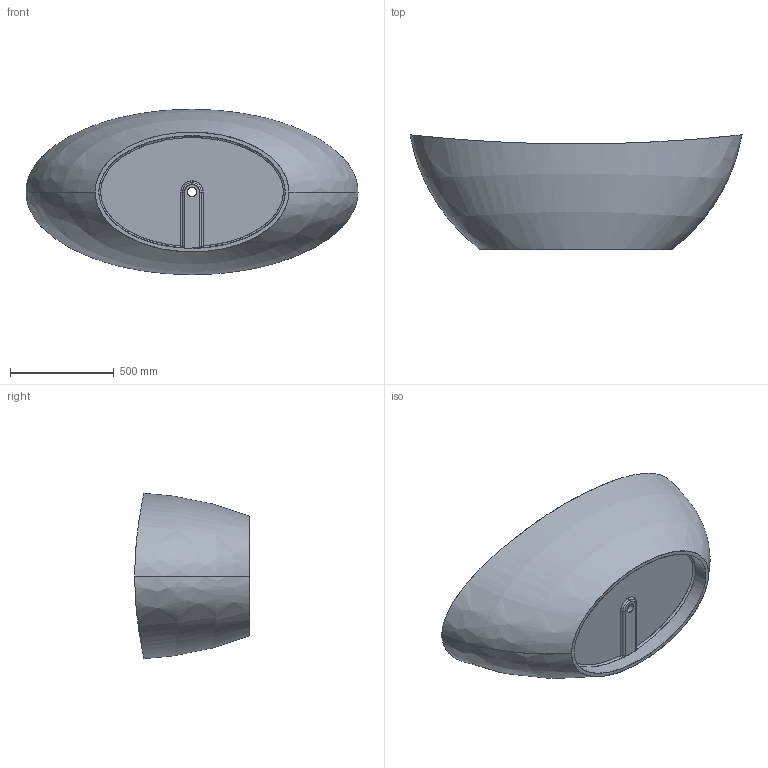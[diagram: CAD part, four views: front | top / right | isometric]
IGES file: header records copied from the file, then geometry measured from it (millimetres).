
Start section: SolidWorks IGES file using analytic representation for surfaces
Global section: file name: C:\Users\SD\Desktop\BW-03-L.IGS; native system: SolidWorks 2015; preprocessor: SolidWorks 2015; author: SD; date: 150707.165914; units: millimetre
Bounding box: 1600 x 551.11 x 796.78 mm (x, y, z)
Surface area: 4520443.6 mm2 (no closed solid volume)
Topology: 0 solids, 0 shells, 34 faces, 1195 edges, 1195 vertices
Faces by surface type: bspline 23, revolution 11
